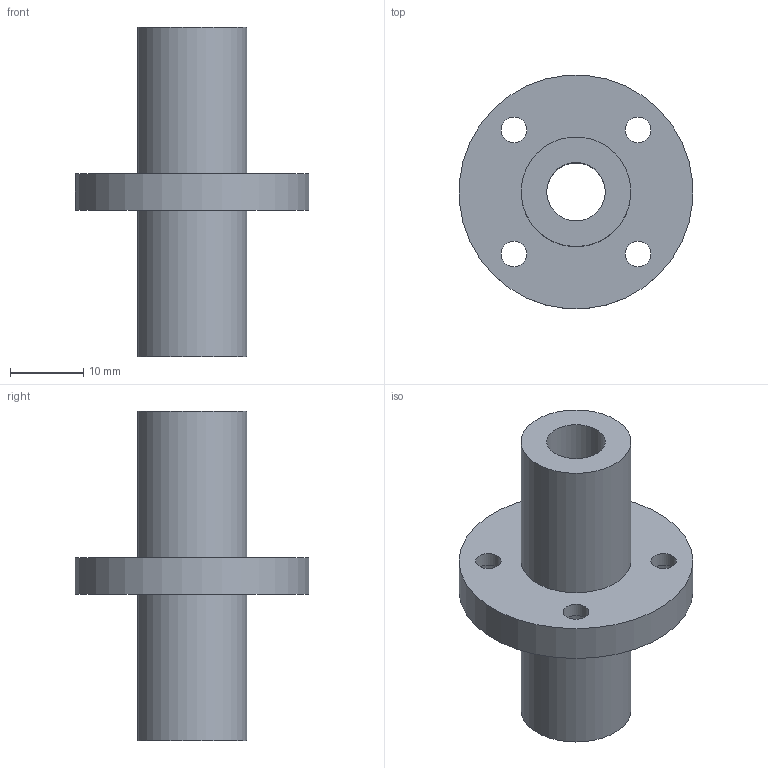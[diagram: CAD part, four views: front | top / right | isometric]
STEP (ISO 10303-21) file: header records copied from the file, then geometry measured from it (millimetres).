
FILE_DESCRIPTION(/* description */ (''),/* implementation_level */ '2;1');
FILE_NAME(/* name */ 'LMFM8LUU',/* time_stamp */ '2019-07-03T11:01:45+02:00',/* author */ ('VĂ©gh MĂˇtĂ©'),/* organization */ ('Bearing Kft'),/* preprocessor_version */ 'ST-DEVELOPER v16.7',/* originating_system */ 'DEX',/* authorisation */ $);
FILE_SCHEMA (('AUTOMOTIVE_DESIGN {1 0 10303 214 3 1 1}'));
Length unit declared in the file: millimetre
Products named in the file (1): LMFM8LUU
Bounding box: 31.88 x 31.88 x 45 mm (x, y, z)
Volume: 8403.5 mm3; surface area: 5277.8 mm2
Topology: 1 solids, 1 shells, 338 faces, 850 edges, 568 vertices
Faces by surface type: plane 261, bspline 63, cylinder 14
Full cylindrical faces by diameter (mm): 3.5 x4, 6 x4, 8 x1, 15 x2, 32 x1
Entity records: 12435 total; most frequent: CARTESIAN_POINT 4737, ORIENTED_EDGE 1662, DIRECTION 1285, EDGE_CURVE 831, LINE 677, VECTOR 677, VERTEX_POINT 564, EDGE_LOOP 417
